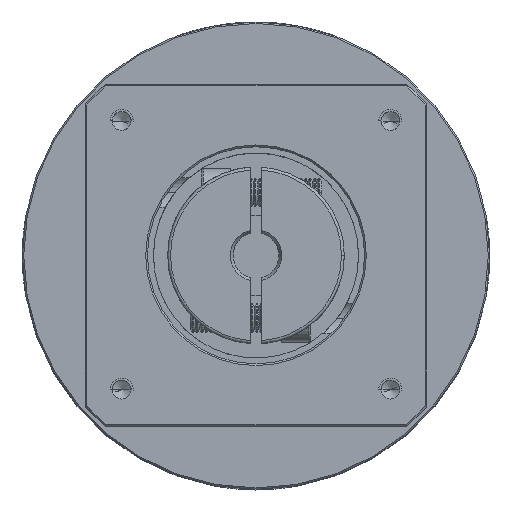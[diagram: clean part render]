
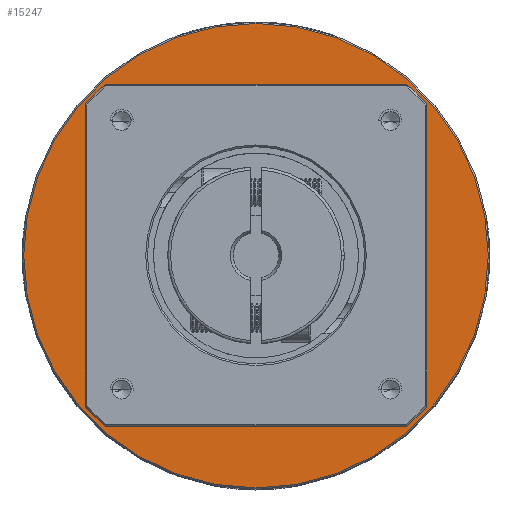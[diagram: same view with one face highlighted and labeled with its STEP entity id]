
A CAD part, top view. The second image highlights one B-rep face of the part: STEP entity #15247.
In plain terms, the highlighted planar face has unit normal (0, 0, 1).
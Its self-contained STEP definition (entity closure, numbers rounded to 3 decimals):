
#2096 = EDGE_LOOP ( 'NONE', ( #33588, #119494 ) ) ;
#4026 = VERTEX_POINT ( 'NONE', #114713 ) ;
#5822 = DIRECTION ( 'NONE',  ( 0., 1., 0. ) ) ;
#6971 = CIRCLE ( 'NONE', #12171, 30. ) ;
#7635 = DIRECTION ( 'NONE',  ( 1., 0., 0. ) ) ;
#8089 = CARTESIAN_POINT ( 'NONE',  ( -58.531, 18.322, -38.007 ) ) ;
#11094 = EDGE_CURVE ( 'NONE', #101098, #14857, #6971, .T. ) ;
#11628 = CIRCLE ( 'NONE', #46463, 30. ) ;
#12171 = AXIS2_PLACEMENT_3D ( 'NONE', #109921, #52223, #119528 ) ;
#12811 = AXIS2_PLACEMENT_3D ( 'NONE', #8089, #76001, #17869 ) ;
#14857 = VERTEX_POINT ( 'NONE', #30206 ) ;
#14900 = FACE_OUTER_BOUND ( 'NONE', #2096, .T. ) ;
#15247 = ADVANCED_FACE ( 'NONE', ( #14900, #114639 ), #84782, .T. ) ;
#16096 = CARTESIAN_POINT ( 'NONE',  ( -28.531, 18.322, -38.007 ) ) ;
#17869 = DIRECTION ( 'NONE',  ( 0., 1., 0. ) ) ;
#30206 = CARTESIAN_POINT ( 'NONE',  ( -88.531, 18.322, -38.007 ) ) ;
#32809 = ORIENTED_EDGE ( 'NONE', *, *, #11094, .T. ) ;
#33588 = ORIENTED_EDGE ( 'NONE', *, *, #123472, .F. ) ;
#42715 = CARTESIAN_POINT ( 'NONE',  ( -58.531, -22.428, -38.007 ) ) ;
#46463 = AXIS2_PLACEMENT_3D ( 'NONE', #115346, #57719, #124891 ) ;
#52223 = DIRECTION ( 'NONE',  ( 0., 0., -1. ) ) ;
#57719 = DIRECTION ( 'NONE',  ( 0., 0., -1. ) ) ;
#58147 = EDGE_LOOP ( 'NONE', ( #75024, #32809 ) ) ;
#61902 = AXIS2_PLACEMENT_3D ( 'NONE', #121484, #64011, #5822 ) ;
#62536 = CIRCLE ( 'NONE', #12811, 40.75 ) ;
#63019 = VERTEX_POINT ( 'NONE', #42715 ) ;
#64011 = DIRECTION ( 'NONE',  ( 0., 0., -1. ) ) ;
#65821 = DIRECTION ( 'NONE',  ( 0., 0., 1. ) ) ;
#75024 = ORIENTED_EDGE ( 'NONE', *, *, #82409, .T. ) ;
#76001 = DIRECTION ( 'NONE',  ( 0., 0., -1. ) ) ;
#82409 = EDGE_CURVE ( 'NONE', #14857, #101098, #11628, .T. ) ;
#84782 = PLANE ( 'NONE',  #116420 ) ;
#88267 = EDGE_CURVE ( 'NONE', #63019, #4026, #98356, .T. ) ;
#98356 = CIRCLE ( 'NONE', #61902, 40.75 ) ;
#101098 = VERTEX_POINT ( 'NONE', #16096 ) ;
#109921 = CARTESIAN_POINT ( 'NONE',  ( -58.531, 18.322, -38.007 ) ) ;
#114639 = FACE_BOUND ( 'NONE', #58147, .T. ) ;
#114713 = CARTESIAN_POINT ( 'NONE',  ( -58.531, 59.072, -38.007 ) ) ;
#115346 = CARTESIAN_POINT ( 'NONE',  ( -58.531, 18.322, -38.007 ) ) ;
#116420 = AXIS2_PLACEMENT_3D ( 'NONE', #123265, #65821, #7635 ) ;
#119494 = ORIENTED_EDGE ( 'NONE', *, *, #88267, .F. ) ;
#119528 = DIRECTION ( 'NONE',  ( -1., 0., 0. ) ) ;
#121484 = CARTESIAN_POINT ( 'NONE',  ( -58.531, 18.322, -38.007 ) ) ;
#123265 = CARTESIAN_POINT ( 'NONE',  ( -58.531, 18.322, -38.007 ) ) ;
#123472 = EDGE_CURVE ( 'NONE', #4026, #63019, #62536, .T. ) ;
#124891 = DIRECTION ( 'NONE',  ( -1., 0., 0. ) ) ;
